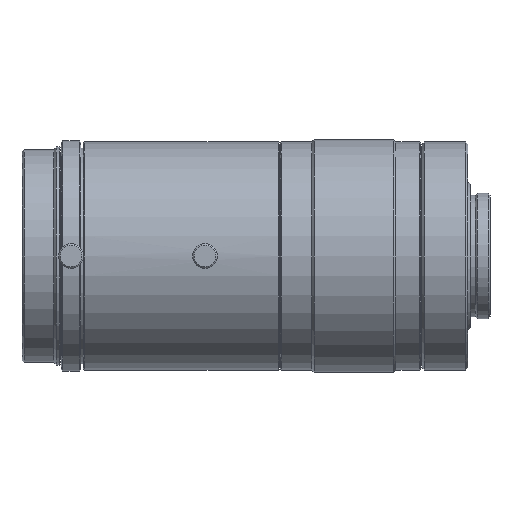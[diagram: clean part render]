
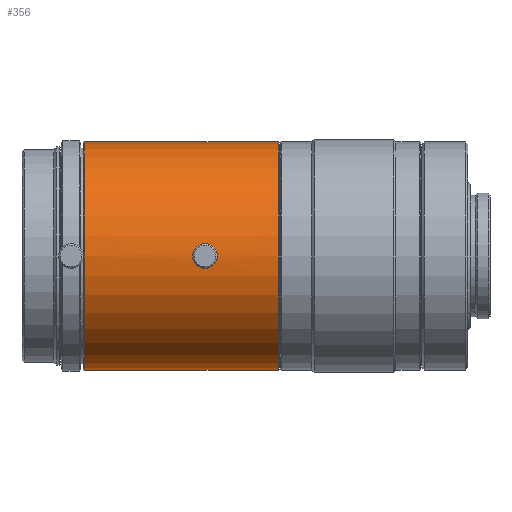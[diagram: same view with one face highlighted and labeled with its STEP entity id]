
A CAD part, front view. The second image highlights one B-rep face of the part: STEP entity #356.
In plain terms, the highlighted cylindrical face has radius 23 mm (diameter 46 mm), a partial arc.
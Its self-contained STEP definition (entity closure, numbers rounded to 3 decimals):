
#46 = DIRECTION ( 'NONE',  ( 1., 0., 0. ) ) ;
#52 = CARTESIAN_POINT ( 'NONE',  ( -95.326, 0., -23. ) ) ;
#54 = DIRECTION ( 'NONE',  ( 1., 0., 0. ) ) ;
#94 = LINE ( 'NONE', #3036, #1910 ) ;
#98 = ORIENTED_EDGE ( 'NONE', *, *, #2958, .T. ) ;
#116 = CARTESIAN_POINT ( 'NONE',  ( -71.026, -22.978, 1. ) ) ;
#128 = CARTESIAN_POINT ( 'NONE',  ( -56.226, 0., -23. ) ) ;
#136 = CARTESIAN_POINT ( 'NONE',  ( -70.026, -23., 0.13 ) ) ;
#148 = CARTESIAN_POINT ( 'NONE',  ( -70.052, -22.999, 0.261 ) ) ;
#189 = AXIS2_PLACEMENT_3D ( 'NONE', #3005, #54, #2783 ) ;
#228 = CARTESIAN_POINT ( 'NONE',  ( -71.157, -22.978, 1. ) ) ;
#256 = CARTESIAN_POINT ( 'NONE',  ( -72.026, -23., 0.133 ) ) ;
#269 = CARTESIAN_POINT ( 'NONE',  ( -71.529, -22.983, 0.874 ) ) ;
#274 = CARTESIAN_POINT ( 'NONE',  ( 0., 0., 0. ) ) ;
#287 = EDGE_CURVE ( 'NONE', #2959, #2846, #1128, .T. ) ;
#294 = DIRECTION ( 'NONE',  ( 0., 0., -1. ) ) ;
#356 = ADVANCED_FACE ( 'NONE', ( #909, #1302 ), #2060, .T. ) ;
#360 = CARTESIAN_POINT ( 'NONE',  ( -70.411, -22.986, -0.799 ) ) ;
#418 = ORIENTED_EDGE ( 'NONE', *, *, #789, .F. ) ;
#424 = B_SPLINE_CURVE_WITH_KNOTS ( 'NONE', 3,
 ( #1752, #228, #2487, #269, #474, #2475, #2208, #1977, #256, #2222, #2973, #1482, #2001, #3239, #1732, #1992 ),
 .UNSPECIFIED., .F., .F.,
 ( 4, 2, 2, 2, 2, 2, 2, 4 ),
 ( 0.003, 0.004, 0.004, 0.004, 0.005, 0.005, 0.005, 0.006 ),
 .UNSPECIFIED. ) ;
#469 = B_SPLINE_CURVE_WITH_KNOTS ( 'NONE', 3,
 ( #876, #1384, #1849, #1125, #360, #2361, #3133, #1112, #3103, #136, #148, #1865, #889, #1599, #1877, #2077, #1104, #2621 ),
 .UNSPECIFIED., .F., .F.,
 ( 4, 2, 2, 2, 2, 2, 2, 2, 4 ),
 ( 0., 0., 0.001, 0.001, 0.002, 0.002, 0.002, 0.003, 0.003 ),
 .UNSPECIFIED. ) ;
#474 = CARTESIAN_POINT ( 'NONE',  ( -71.64, -22.986, 0.8 ) ) ;
#546 = CARTESIAN_POINT ( 'NONE',  ( -56.226, 0., 0. ) ) ;
#561 = ORIENTED_EDGE ( 'NONE', *, *, #2325, .F. ) ;
#634 = VERTEX_POINT ( 'NONE', #128 ) ;
#662 = EDGE_LOOP ( 'NONE', ( #561, #418 ) ) ;
#759 = AXIS2_PLACEMENT_3D ( 'NONE', #274, #2282, #294 ) ;
#789 = EDGE_CURVE ( 'NONE', #3162, #2023, #424, .T. ) ;
#799 = DIRECTION ( 'NONE',  ( 1., 0., 0. ) ) ;
#831 = AXIS2_PLACEMENT_3D ( 'NONE', #546, #46, #2286 ) ;
#837 = EDGE_CURVE ( 'NONE', #2959, #1450, #94, .T. ) ;
#876 = CARTESIAN_POINT ( 'NONE',  ( -71.026, -22.978, -1. ) ) ;
#889 = CARTESIAN_POINT ( 'NONE',  ( -70.225, -22.992, 0.614 ) ) ;
#909 = FACE_OUTER_BOUND ( 'NONE', #1356, .T. ) ;
#983 = ORIENTED_EDGE ( 'NONE', *, *, #1153, .F. ) ;
#1104 = CARTESIAN_POINT ( 'NONE',  ( -70.895, -22.978, 1. ) ) ;
#1112 = CARTESIAN_POINT ( 'NONE',  ( -70.052, -22.999, -0.262 ) ) ;
#1124 = DIRECTION ( 'NONE',  ( 1., 0., 0. ) ) ;
#1125 = CARTESIAN_POINT ( 'NONE',  ( -70.522, -22.983, -0.874 ) ) ;
#1128 = CIRCLE ( 'NONE', #189, 23. ) ;
#1153 = EDGE_CURVE ( 'NONE', #1450, #634, #2345, .T. ) ;
#1224 = CARTESIAN_POINT ( 'NONE',  ( -56.226, 0., 23. ) ) ;
#1302 = FACE_BOUND ( 'NONE', #662, .T. ) ;
#1306 = ORIENTED_EDGE ( 'NONE', *, *, #287, .T. ) ;
#1356 = EDGE_LOOP ( 'NONE', ( #2363, #1306, #98, #983 ) ) ;
#1384 = CARTESIAN_POINT ( 'NONE',  ( -70.894, -22.978, -1. ) ) ;
#1450 = VERTEX_POINT ( 'NONE', #1224 ) ;
#1482 = CARTESIAN_POINT ( 'NONE',  ( -71.9, -22.995, -0.503 ) ) ;
#1599 = CARTESIAN_POINT ( 'NONE',  ( -70.412, -22.986, 0.8 ) ) ;
#1732 = CARTESIAN_POINT ( 'NONE',  ( -71.29, -22.978, -1. ) ) ;
#1752 = CARTESIAN_POINT ( 'NONE',  ( -71.026, -22.978, 1. ) ) ;
#1849 = CARTESIAN_POINT ( 'NONE',  ( -70.764, -22.979, -0.974 ) ) ;
#1865 = CARTESIAN_POINT ( 'NONE',  ( -70.152, -22.995, 0.503 ) ) ;
#1877 = CARTESIAN_POINT ( 'NONE',  ( -70.522, -22.983, 0.874 ) ) ;
#1910 = VECTOR ( 'NONE', #799, 1000. ) ;
#1977 = CARTESIAN_POINT ( 'NONE',  ( -72., -22.999, 0.263 ) ) ;
#1992 = CARTESIAN_POINT ( 'NONE',  ( -71.026, -22.978, -1. ) ) ;
#2001 = CARTESIAN_POINT ( 'NONE',  ( -71.826, -22.992, -0.614 ) ) ;
#2023 = VERTEX_POINT ( 'NONE', #2688 ) ;
#2060 = CYLINDRICAL_SURFACE ( 'NONE', #759, 23. ) ;
#2067 = CARTESIAN_POINT ( 'NONE',  ( 0., 0., -23. ) ) ;
#2077 = CARTESIAN_POINT ( 'NONE',  ( -70.765, -22.979, 0.974 ) ) ;
#2208 = CARTESIAN_POINT ( 'NONE',  ( -71.899, -22.995, 0.504 ) ) ;
#2222 = CARTESIAN_POINT ( 'NONE',  ( -72.026, -23., -0.131 ) ) ;
#2282 = DIRECTION ( 'NONE',  ( 1., 0., 0. ) ) ;
#2286 = DIRECTION ( 'NONE',  ( 0., 0., -1. ) ) ;
#2325 = EDGE_CURVE ( 'NONE', #2023, #3162, #469, .T. ) ;
#2345 = CIRCLE ( 'NONE', #831, 23. ) ;
#2361 = CARTESIAN_POINT ( 'NONE',  ( -70.227, -22.992, -0.615 ) ) ;
#2363 = ORIENTED_EDGE ( 'NONE', *, *, #837, .F. ) ;
#2475 = CARTESIAN_POINT ( 'NONE',  ( -71.825, -22.992, 0.615 ) ) ;
#2487 = CARTESIAN_POINT ( 'NONE',  ( -71.288, -22.979, 0.974 ) ) ;
#2586 = CARTESIAN_POINT ( 'NONE',  ( -95.326, 0., 23. ) ) ;
#2588 = LINE ( 'NONE', #2067, #2631 ) ;
#2621 = CARTESIAN_POINT ( 'NONE',  ( -71.026, -22.978, 1. ) ) ;
#2631 = VECTOR ( 'NONE', #1124, 1000. ) ;
#2688 = CARTESIAN_POINT ( 'NONE',  ( -71.026, -22.978, -1. ) ) ;
#2783 = DIRECTION ( 'NONE',  ( 0., 0., -1. ) ) ;
#2846 = VERTEX_POINT ( 'NONE', #52 ) ;
#2958 = EDGE_CURVE ( 'NONE', #2846, #634, #2588, .T. ) ;
#2959 = VERTEX_POINT ( 'NONE', #2586 ) ;
#2973 = CARTESIAN_POINT ( 'NONE',  ( -72., -22.999, -0.261 ) ) ;
#3005 = CARTESIAN_POINT ( 'NONE',  ( -95.326, 0., 0. ) ) ;
#3036 = CARTESIAN_POINT ( 'NONE',  ( 0., 0., 23. ) ) ;
#3103 = CARTESIAN_POINT ( 'NONE',  ( -70.026, -23., -0.131 ) ) ;
#3133 = CARTESIAN_POINT ( 'NONE',  ( -70.152, -22.995, -0.503 ) ) ;
#3162 = VERTEX_POINT ( 'NONE', #116 ) ;
#3239 = CARTESIAN_POINT ( 'NONE',  ( -71.549, -22.983, -0.891 ) ) ;
